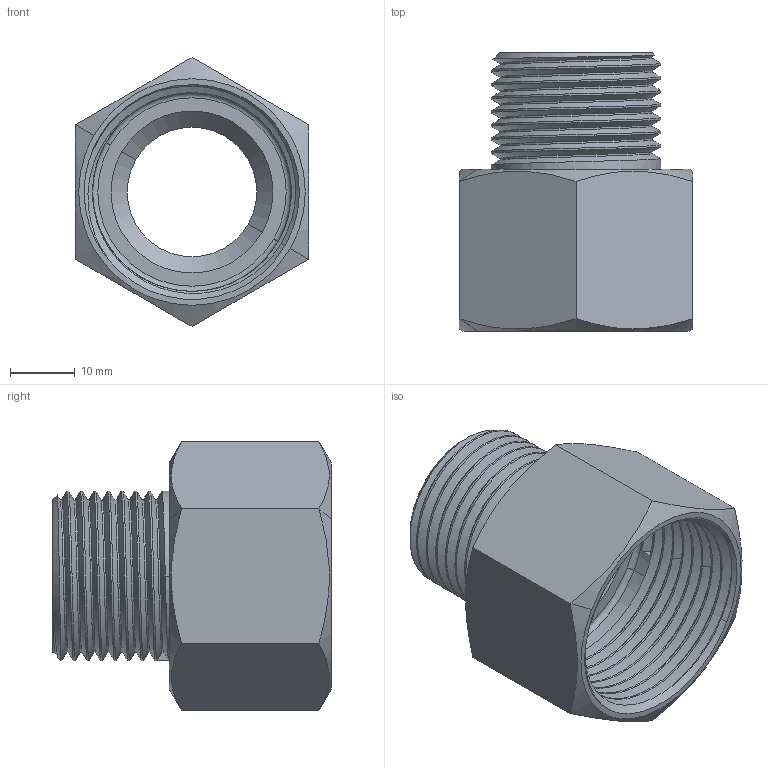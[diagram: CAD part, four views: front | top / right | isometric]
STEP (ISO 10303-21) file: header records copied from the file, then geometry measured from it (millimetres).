
FILE_DESCRIPTION((''),'2;1');
FILE_NAME('76701662600','2021-12-17T16:39:21',('alfio.taboni'),('CDM Tecnoconsulting'),'CREO PARAMETRIC BY PTC INC, 2020053','CREO PARAMETRIC BY PTC INC, 2020053','');
FILE_SCHEMA(('CONFIG_CONTROL_DESIGN','SHAPE_APPEARANCE_LAYERS_GROUPS'));
Length unit declared in the file: millimetre
Products named in the file (1): 76701662600
Bounding box: 36 x 43 x 41.57 mm (x, y, z)
Volume: 13254.3 mm3; surface area: 11295.9 mm2
Topology: 1 solids, 1 shells, 204 faces, 540 edges, 354 vertices
Faces by surface type: plane 84, extrusion 55, cylinder 33, bspline 18, cone 12, torus 2
Entity records: 13783 total; most frequent: CARTESIAN_POINT 9041, ORIENTED_EDGE 1080, DIRECTION 667, EDGE_CURVE 540, VERTEX_POINT 354, VECTOR 353, LINE 298, B_SPLINE_CURVE_WITH_KNOTS 271
